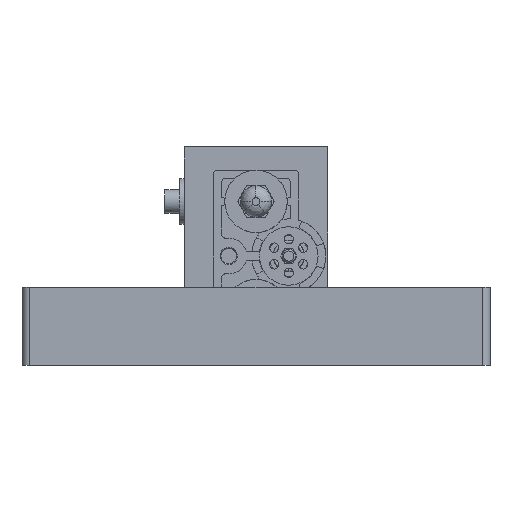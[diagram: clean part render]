
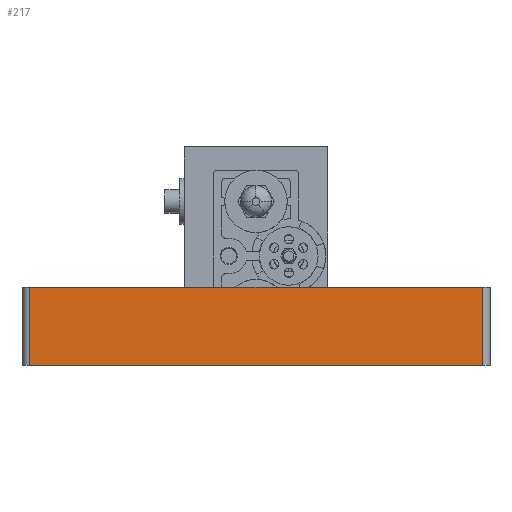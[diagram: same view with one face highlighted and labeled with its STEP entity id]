
A CAD part, front view. The second image highlights one B-rep face of the part: STEP entity #217.
In plain terms, the highlighted planar face has unit normal (0, -1, 0) as drawn and (-1, 0, 0) by its records, which use the part's own axes.
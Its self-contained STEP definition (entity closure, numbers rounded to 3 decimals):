
#181=AXIS2_PLACEMENT_3D('Plane Axis2P3D',#178,#179,#180) ;
#178=CARTESIAN_POINT('Axis2P3D Location',(-16.,24.5,0.)) ;
#183=CARTESIAN_POINT('Line Origine',(-16.,-5.5,0.)) ;
#187=CARTESIAN_POINT('Vertex',(-16.,23.5,0.)) ;
#189=CARTESIAN_POINT('Vertex',(-16.,-34.5,0.)) ;
#192=CARTESIAN_POINT('Line Origine',(-16.,-34.5,5.)) ;
#196=CARTESIAN_POINT('Vertex',(-16.,-34.5,10.)) ;
#199=CARTESIAN_POINT('Line Origine',(-16.,-5.5,10.)) ;
#203=CARTESIAN_POINT('Vertex',(-16.,23.5,10.)) ;
#206=CARTESIAN_POINT('Line Origine',(-16.,23.5,5.)) ;
#179=DIRECTION('Axis2P3D Direction',(-1.,0.,0.)) ;
#180=DIRECTION('Axis2P3D XDirection',(0.,-1.,0.)) ;
#184=DIRECTION('Vector Direction',(0.,-1.,0.)) ;
#193=DIRECTION('Vector Direction',(0.,0.,1.)) ;
#200=DIRECTION('Vector Direction',(0.,-1.,0.)) ;
#207=DIRECTION('Vector Direction',(0.,0.,1.)) ;
#185=VECTOR('Line Direction',#184,1.) ;
#194=VECTOR('Line Direction',#193,1.) ;
#201=VECTOR('Line Direction',#200,1.) ;
#208=VECTOR('Line Direction',#207,1.) ;
#212=ORIENTED_EDGE('',*,*,#191,.T.) ;
#213=ORIENTED_EDGE('',*,*,#198,.T.) ;
#214=ORIENTED_EDGE('',*,*,#205,.F.) ;
#215=ORIENTED_EDGE('',*,*,#210,.F.) ;
#217=ADVANCED_FACE('\X2\96F64EF651E04F554F53\X0\',(#216),#182,.T.) ;
#191=EDGE_CURVE('',#188,#190,#186,.T.) ;
#198=EDGE_CURVE('',#190,#197,#195,.T.) ;
#205=EDGE_CURVE('',#204,#197,#202,.T.) ;
#210=EDGE_CURVE('',#188,#204,#209,.T.) ;
#211=EDGE_LOOP('',(#212,#213,#214,#215)) ;
#216=FACE_OUTER_BOUND('',#211,.T.) ;
#186=LINE('Line',#183,#185) ;
#195=LINE('Line',#192,#194) ;
#202=LINE('Line',#199,#201) ;
#209=LINE('Line',#206,#208) ;
#182=PLANE('',#181) ;
#188=VERTEX_POINT('',#187) ;
#190=VERTEX_POINT('',#189) ;
#197=VERTEX_POINT('',#196) ;
#204=VERTEX_POINT('',#203) ;
